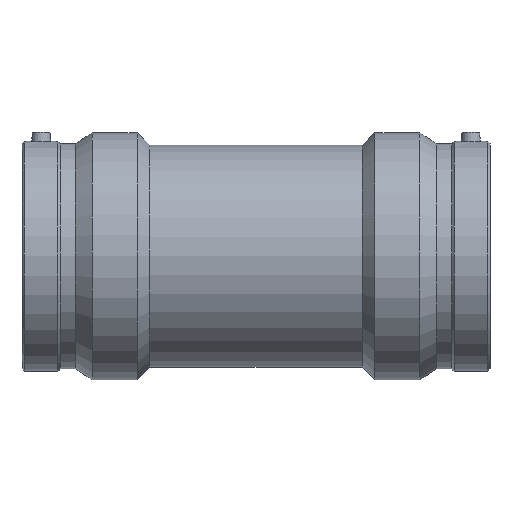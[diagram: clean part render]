
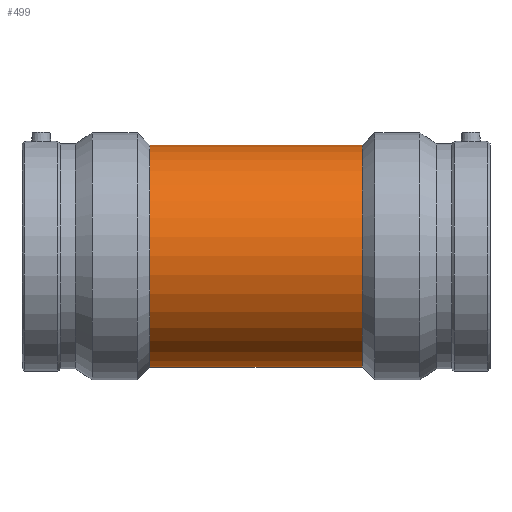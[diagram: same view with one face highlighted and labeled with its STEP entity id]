
A CAD part, top view. The second image highlights one B-rep face of the part: STEP entity #499.
In plain terms, the highlighted cylindrical face has radius 94.05 mm (diameter 188.1 mm), a full revolution.
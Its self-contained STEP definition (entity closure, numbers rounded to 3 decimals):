
#30=B_SPLINE_CURVE_WITH_KNOTS('',3,(#865,#866,#867,#868,#869,#870,#871,
#872,#873,#874,#875,#876,#877,#878,#879,#880,#881,#882,#883,#884,#885,#886,
#887,#888,#889,#890,#891,#892,#893,#894,#895,#896,#897,#898,#899,#900,#901,
#902,#903,#904,#905,#906,#907,#908,#909,#910,#911,#912,#913,#914,#915,#916,
#917,#918,#919,#920,#921,#922,#923,#924,#925,#926,#927,#928,#929,#930),
 .UNSPECIFIED.,.T.,.F.,(4,2,2,2,2,2,2,2,2,2,2,2,2,2,2,2,2,2,2,2,2,2,2,2,
2,2,2,2,2,2,2,2,4),(0.,0.91,1.819,2.729,
3.638,4.545,5.452,6.36,7.267,
8.174,9.081,9.988,10.895,11.804,
12.714,13.624,14.533,15.443,16.352,
17.262,18.172,19.079,19.986,20.893,
21.8,22.707,23.614,24.521,25.428,
26.338,27.247,28.157,29.066),
 .UNSPECIFIED.);
#69=FACE_BOUND('',#187,.T.);
#70=FACE_BOUND('',#188,.T.);
#117=FACE_OUTER_BOUND('',#186,.T.);
#186=EDGE_LOOP('',(#412));
#187=EDGE_LOOP('',(#413));
#188=EDGE_LOOP('',(#414));
#251=CIRCLE('',#568,94.05);
#252=CIRCLE('',#570,94.05);
#276=VERTEX_POINT('',#864);
#297=VERTEX_POINT('',#1058);
#298=VERTEX_POINT('',#1061);
#322=EDGE_CURVE('',#276,#276,#30,.T.);
#343=EDGE_CURVE('',#297,#297,#251,.T.);
#344=EDGE_CURVE('',#298,#298,#252,.T.);
#412=ORIENTED_EDGE('',*,*,#343,.T.);
#413=ORIENTED_EDGE('',*,*,#322,.T.);
#414=ORIENTED_EDGE('',*,*,#344,.F.);
#465=CYLINDRICAL_SURFACE('',#569,94.05);
#499=ADVANCED_FACE('',(#117,#69,#70),#465,.T.);
#568=AXIS2_PLACEMENT_3D('',#1059,#704,#705);
#569=AXIS2_PLACEMENT_3D('',#1060,#706,#707);
#570=AXIS2_PLACEMENT_3D('',#1062,#708,#709);
#704=DIRECTION('center_axis',(1.,0.,0.));
#705=DIRECTION('ref_axis',(0.,0.,-1.));
#706=DIRECTION('center_axis',(1.,0.,0.));
#707=DIRECTION('ref_axis',(0.,1.,0.));
#708=DIRECTION('center_axis',(1.,0.,0.));
#709=DIRECTION('ref_axis',(0.,0.,-1.));
#864=CARTESIAN_POINT('',(0.,-47.25,-81.319));
#865=CARTESIAN_POINT('Ctrl Pts',(0.,-47.25,-81.319));
#866=CARTESIAN_POINT('Ctrl Pts',(3.032,-47.25,-81.319));
#867=CARTESIAN_POINT('Ctrl Pts',(6.145,-46.954,-81.494));
#868=CARTESIAN_POINT('Ctrl Pts',(12.296,-45.73,-82.187));
#869=CARTESIAN_POINT('Ctrl Pts',(15.334,-44.803,-82.704));
#870=CARTESIAN_POINT('Ctrl Pts',(21.133,-42.377,-83.973));
#871=CARTESIAN_POINT('Ctrl Pts',(23.898,-40.877,-84.723));
#872=CARTESIAN_POINT('Ctrl Pts',(29.002,-37.429,-86.302));
#873=CARTESIAN_POINT('Ctrl Pts',(31.34,-35.481,-87.129));
#874=CARTESIAN_POINT('Ctrl Pts',(35.476,-31.346,-88.7));
#875=CARTESIAN_POINT('Ctrl Pts',(37.423,-29.01,-89.503));
#876=CARTESIAN_POINT('Ctrl Pts',(40.873,-23.905,-91.));
#877=CARTESIAN_POINT('Ctrl Pts',(42.376,-21.136,-91.692));
#878=CARTESIAN_POINT('Ctrl Pts',(44.805,-15.329,-92.84));
#879=CARTESIAN_POINT('Ctrl Pts',(45.732,-12.286,-93.295));
#880=CARTESIAN_POINT('Ctrl Pts',(46.955,-6.133,-93.901));
#881=CARTESIAN_POINT('Ctrl Pts',(47.25,-3.024,-94.05));
#882=CARTESIAN_POINT('Ctrl Pts',(47.25,3.024,-94.05));
#883=CARTESIAN_POINT('Ctrl Pts',(46.955,6.133,-93.901));
#884=CARTESIAN_POINT('Ctrl Pts',(45.732,12.286,-93.295));
#885=CARTESIAN_POINT('Ctrl Pts',(44.805,15.329,-92.84));
#886=CARTESIAN_POINT('Ctrl Pts',(42.376,21.136,-91.692));
#887=CARTESIAN_POINT('Ctrl Pts',(40.873,23.905,-91.));
#888=CARTESIAN_POINT('Ctrl Pts',(37.423,29.01,-89.503));
#889=CARTESIAN_POINT('Ctrl Pts',(35.476,31.346,-88.7));
#890=CARTESIAN_POINT('Ctrl Pts',(31.34,35.481,-87.129));
#891=CARTESIAN_POINT('Ctrl Pts',(29.002,37.429,-86.302));
#892=CARTESIAN_POINT('Ctrl Pts',(23.898,40.877,-84.723));
#893=CARTESIAN_POINT('Ctrl Pts',(21.133,42.377,-83.973));
#894=CARTESIAN_POINT('Ctrl Pts',(15.334,44.803,-82.704));
#895=CARTESIAN_POINT('Ctrl Pts',(12.296,45.73,-82.187));
#896=CARTESIAN_POINT('Ctrl Pts',(6.145,46.954,-81.494));
#897=CARTESIAN_POINT('Ctrl Pts',(3.032,47.25,-81.319));
#898=CARTESIAN_POINT('Ctrl Pts',(-3.032,47.25,-81.319));
#899=CARTESIAN_POINT('Ctrl Pts',(-6.145,46.954,-81.494));
#900=CARTESIAN_POINT('Ctrl Pts',(-12.296,45.73,-82.187));
#901=CARTESIAN_POINT('Ctrl Pts',(-15.334,44.803,-82.704));
#902=CARTESIAN_POINT('Ctrl Pts',(-21.133,42.377,-83.973));
#903=CARTESIAN_POINT('Ctrl Pts',(-23.898,40.877,-84.723));
#904=CARTESIAN_POINT('Ctrl Pts',(-29.002,37.429,-86.302));
#905=CARTESIAN_POINT('Ctrl Pts',(-31.34,35.481,-87.129));
#906=CARTESIAN_POINT('Ctrl Pts',(-35.476,31.346,-88.7));
#907=CARTESIAN_POINT('Ctrl Pts',(-37.423,29.01,-89.503));
#908=CARTESIAN_POINT('Ctrl Pts',(-40.873,23.905,-91.));
#909=CARTESIAN_POINT('Ctrl Pts',(-42.376,21.136,-91.692));
#910=CARTESIAN_POINT('Ctrl Pts',(-44.805,15.329,-92.84));
#911=CARTESIAN_POINT('Ctrl Pts',(-45.732,12.286,-93.295));
#912=CARTESIAN_POINT('Ctrl Pts',(-46.955,6.133,-93.901));
#913=CARTESIAN_POINT('Ctrl Pts',(-47.25,3.024,-94.05));
#914=CARTESIAN_POINT('Ctrl Pts',(-47.25,-3.024,-94.05));
#915=CARTESIAN_POINT('Ctrl Pts',(-46.955,-6.133,-93.901));
#916=CARTESIAN_POINT('Ctrl Pts',(-45.732,-12.286,-93.295));
#917=CARTESIAN_POINT('Ctrl Pts',(-44.805,-15.329,-92.84));
#918=CARTESIAN_POINT('Ctrl Pts',(-42.376,-21.136,-91.692));
#919=CARTESIAN_POINT('Ctrl Pts',(-40.873,-23.905,-91.));
#920=CARTESIAN_POINT('Ctrl Pts',(-37.423,-29.01,-89.503));
#921=CARTESIAN_POINT('Ctrl Pts',(-35.476,-31.346,-88.7));
#922=CARTESIAN_POINT('Ctrl Pts',(-31.34,-35.481,-87.129));
#923=CARTESIAN_POINT('Ctrl Pts',(-29.002,-37.429,-86.302));
#924=CARTESIAN_POINT('Ctrl Pts',(-23.898,-40.877,-84.723));
#925=CARTESIAN_POINT('Ctrl Pts',(-21.133,-42.377,-83.973));
#926=CARTESIAN_POINT('Ctrl Pts',(-15.334,-44.803,-82.704));
#927=CARTESIAN_POINT('Ctrl Pts',(-12.296,-45.73,-82.187));
#928=CARTESIAN_POINT('Ctrl Pts',(-6.145,-46.954,-81.494));
#929=CARTESIAN_POINT('Ctrl Pts',(-3.032,-47.25,-81.319));
#930=CARTESIAN_POINT('Ctrl Pts',(0.,-47.25,-81.319));
#1058=CARTESIAN_POINT('',(-90.09,94.05,0.));
#1059=CARTESIAN_POINT('Origin',(-90.09,0.,0.));
#1060=CARTESIAN_POINT('Origin',(0.,0.,0.));
#1061=CARTESIAN_POINT('',(90.09,94.05,0.));
#1062=CARTESIAN_POINT('Origin',(90.09,0.,0.));
